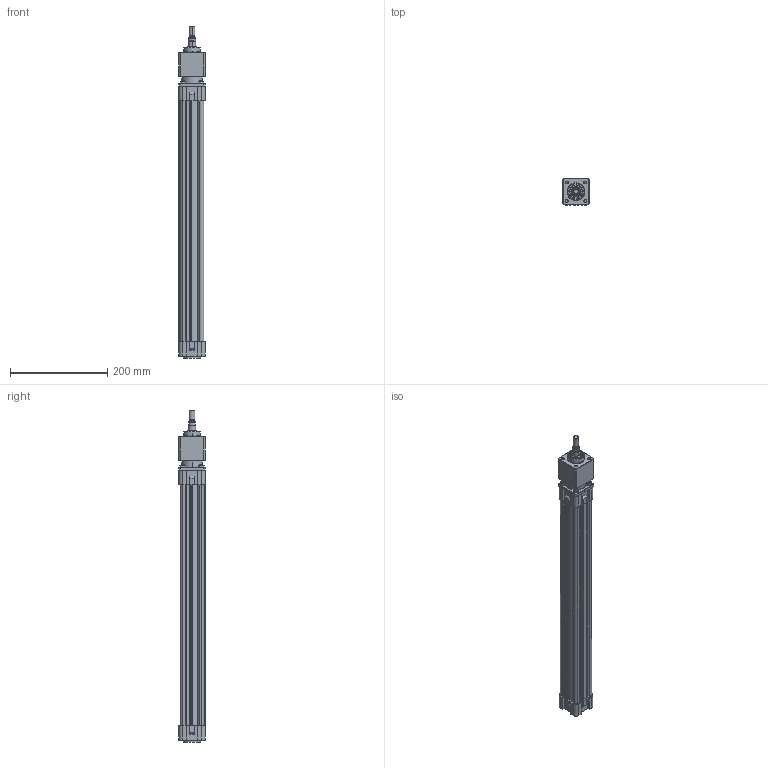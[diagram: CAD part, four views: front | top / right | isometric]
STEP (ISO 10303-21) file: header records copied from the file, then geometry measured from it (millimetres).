
FILE_DESCRIPTION (( 'STEP AP214' ), '1' );
FILE_NAME ('WALCK-040-0450 (MDMY).STEP', '2017-04-26T12:21:14', ( 'Hidtek' ), ( '' ), 'SwSTEP 2.0', 'SolidWorks 2016', '' );
FILE_SCHEMA (( 'AUTOMOTIVE_DESIGN' ));
Length unit declared in the file: millimetre
Products named in the file (4): Group1^WALCK-040-0450 (MDMY); WI-RDLCK-040 (3DMY)-1^WALCK-040-0450 (MDMY); Group2^WALCK-040-0450 (MDMY); WALCK-040-0450 (MDMY)
Assembly tree (3 placements, depth 2):
  WALCK-040-0450 (MDMY)
    Group1^WALCK-040-0450 (MDMY)
    Group2^WALCK-040-0450 (MDMY)
    WI-RDLCK-040 (3DMY)-1^WALCK-040-0450 (MDMY)
Bounding box: 54 x 54 x 683.13 mm (x, y, z)
Volume: 879694.9 mm3; surface area: 293876.7 mm2
Topology: 21 solids, 21 shells, 737 faces, 1832 edges, 1186 vertices
Faces by surface type: plane 462, cylinder 163, cone 86, torus 18, bspline 8
Entity records: 25005 total; most frequent: CARTESIAN_POINT 5258, ORIENTED_EDGE 3648, DIRECTION 3540, EDGE_CURVE 1824, AXIS2_PLACEMENT_3D 1197, VERTEX_POINT 1186, LINE 1146, VECTOR 1146
